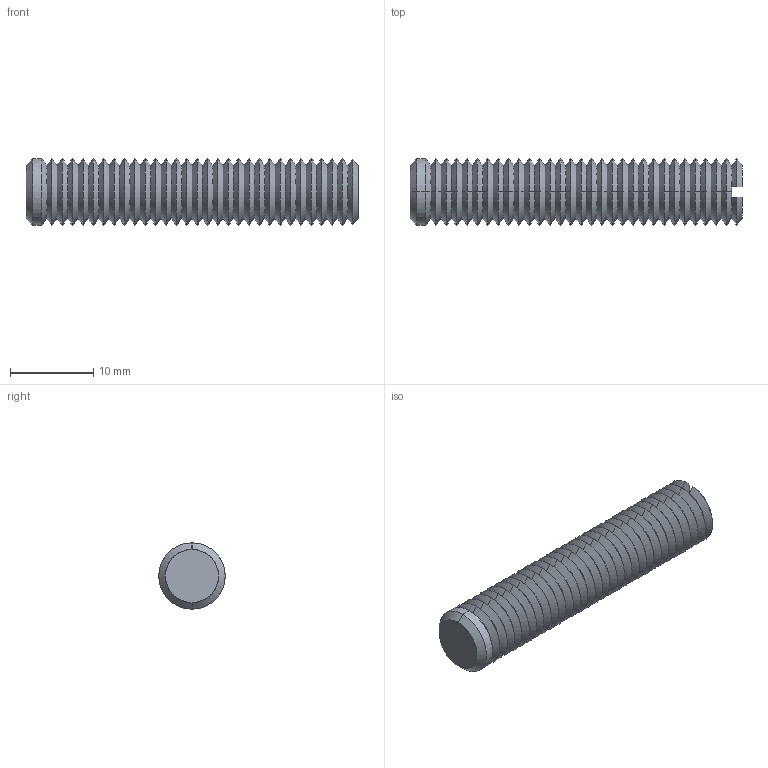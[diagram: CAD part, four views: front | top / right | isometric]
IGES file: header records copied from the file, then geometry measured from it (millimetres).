
Start section: SolidWorks IGES file using analytic representation for surfaces
Global section: file name: C:\Documents and Settings\IANO\Desktop\Temp File\Process pending\EXISTING\34300_v2\34300_v2_20170622_IGES\34300.W0083.igs; native system: SolidWorks 2009; preprocessor: SolidWorks 2009; author: IANO; date: 170622.093801; units: millimetre
Bounding box: 40 x 8 x 8 mm (x, y, z)
Surface area: 1513.6 mm2 (no closed solid volume)
Topology: 0 solids, 0 shells, 132 faces, 592 edges, 592 vertices
Faces by surface type: revolution 126, bspline 6
